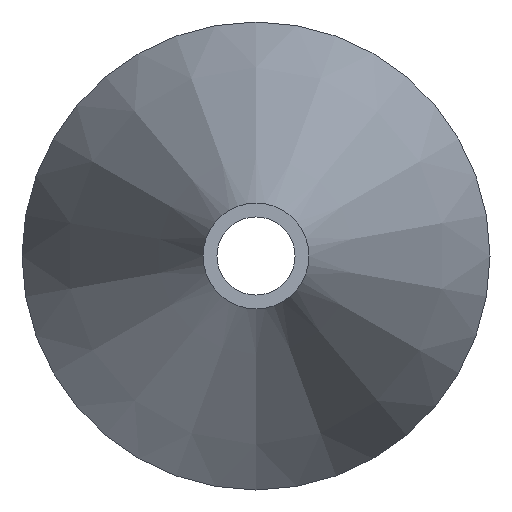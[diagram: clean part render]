
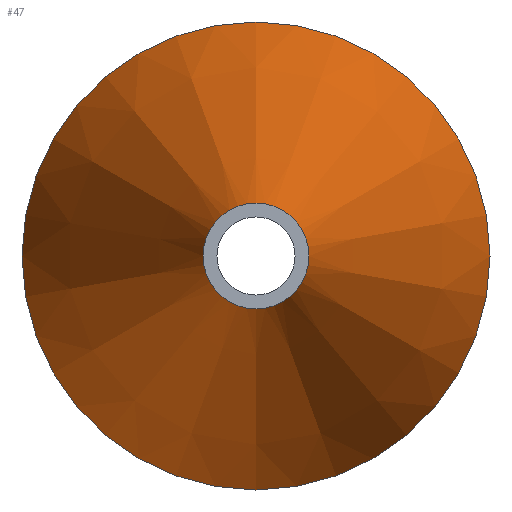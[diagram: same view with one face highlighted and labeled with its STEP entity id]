
A CAD part, left-side view. The second image highlights one B-rep face of the part: STEP entity #47.
In plain terms, the highlighted conical face has half-angle 18.892 degrees and reference radius 4.5 mm.
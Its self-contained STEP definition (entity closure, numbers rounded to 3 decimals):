
#47 = ADVANCED_FACE( '', ( #96, #97 ), #98, .T. );
#96 = FACE_OUTER_BOUND( '', #139, .T. );
#97 = FACE_BOUND( '', #140, .T. );
#98 = CONICAL_SURFACE( '', #141, 4.5, 0.33 );
#139 = EDGE_LOOP( '', ( #190 ) );
#140 = EDGE_LOOP( '', ( #191 ) );
#141 = AXIS2_PLACEMENT_3D( '', #192, #193, #194 );
#190 = ORIENTED_EDGE( '', *, *, #212, .T. );
#191 = ORIENTED_EDGE( '', *, *, #215, .F. );
#192 = CARTESIAN_POINT( '', ( 0., 0., 0. ) );
#193 = DIRECTION( '', ( 1., 0., 0. ) );
#194 = DIRECTION( '', ( 0., 0., -1. ) );
#212 = EDGE_CURVE( '', #236, #236, #237, .T. );
#215 = EDGE_CURVE( '', #241, #241, #242, .T. );
#236 = VERTEX_POINT( '', #263 );
#237 = CIRCLE( '', #264, 19.9 );
#241 = VERTEX_POINT( '', #268 );
#242 = CIRCLE( '', #269, 4.5 );
#263 = CARTESIAN_POINT( '', ( 45., 0., 19.9 ) );
#264 = AXIS2_PLACEMENT_3D( '', #291, #292, #293 );
#268 = CARTESIAN_POINT( '', ( 0., 0., 4.5 ) );
#269 = AXIS2_PLACEMENT_3D( '', #297, #298, #299 );
#291 = CARTESIAN_POINT( '', ( 45., 0., 0. ) );
#292 = DIRECTION( '', ( -1., 0., 0. ) );
#293 = DIRECTION( '', ( 0., 0., 1. ) );
#297 = CARTESIAN_POINT( '', ( 0., 0., 0. ) );
#298 = DIRECTION( '', ( -1., 0., 0. ) );
#299 = DIRECTION( '', ( 0., 0., 1. ) );
